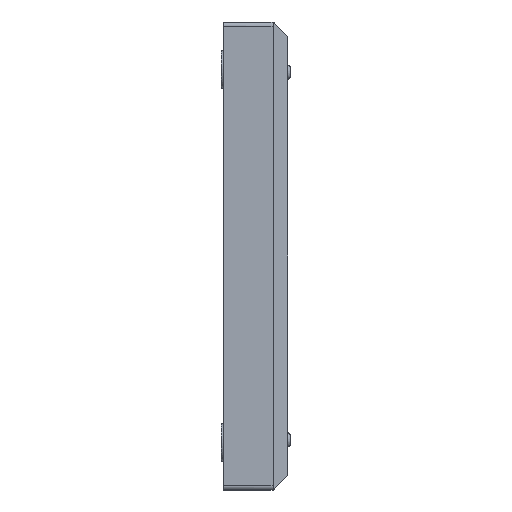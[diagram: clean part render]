
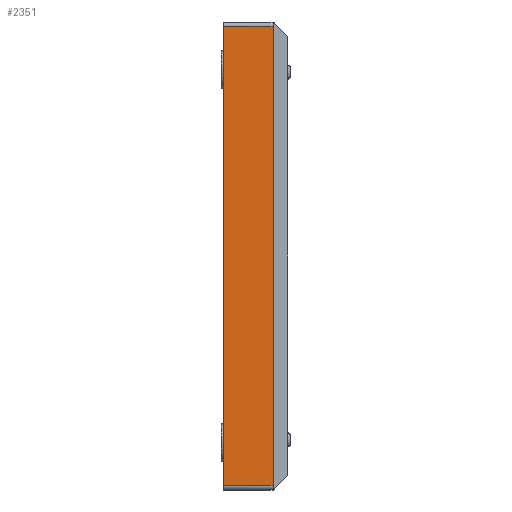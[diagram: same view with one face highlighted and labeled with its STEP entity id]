
A CAD part, left-side view. The second image highlights one B-rep face of the part: STEP entity #2351.
In plain terms, the highlighted planar face has unit normal (-1, 0, 0).
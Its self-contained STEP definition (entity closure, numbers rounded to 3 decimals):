
#397 = DIRECTION ( 'NONE',  ( -1., 0., 0. ) ) ;
#437 = LINE ( 'NONE', #3262, #1084 ) ;
#491 = CARTESIAN_POINT ( 'NONE',  ( -100., 0., 55. ) ) ;
#574 = VECTOR ( 'NONE', #1653, 1000. ) ;
#679 = EDGE_CURVE ( 'NONE', #884, #2939, #3019, .T. ) ;
#884 = VERTEX_POINT ( 'NONE', #1952 ) ;
#927 = EDGE_CURVE ( 'NONE', #1579, #884, #2544, .T. ) ;
#1005 = EDGE_CURVE ( 'NONE', #1583, #1579, #1613, .T. ) ;
#1084 = VECTOR ( 'NONE', #3075, 1000. ) ;
#1535 = CARTESIAN_POINT ( 'NONE',  ( -100., -15.4, -55. ) ) ;
#1579 = VERTEX_POINT ( 'NONE', #2450 ) ;
#1583 = VERTEX_POINT ( 'NONE', #2922 ) ;
#1613 = LINE ( 'NONE', #1535, #574 ) ;
#1653 = DIRECTION ( 'NONE',  ( 0., -1., 0. ) ) ;
#1694 = EDGE_CURVE ( 'NONE', #1583, #2939, #437, .T. ) ;
#1884 = DIRECTION ( 'NONE',  ( 0., 0., 1. ) ) ;
#1900 = CARTESIAN_POINT ( 'NONE',  ( -100., -11.9, 56. ) ) ;
#1952 = CARTESIAN_POINT ( 'NONE',  ( -100., -11.9, 55. ) ) ;
#1976 = AXIS2_PLACEMENT_3D ( 'NONE', #2643, #397, #2581 ) ;
#2195 = FACE_OUTER_BOUND ( 'NONE', #3383, .T. ) ;
#2351 = ADVANCED_FACE ( 'NONE', ( #2195 ), #2880, .T. ) ;
#2450 = CARTESIAN_POINT ( 'NONE',  ( -100., -11.9, -55. ) ) ;
#2458 = VECTOR ( 'NONE', #1884, 1000. ) ;
#2544 = LINE ( 'NONE', #1900, #2458 ) ;
#2581 = DIRECTION ( 'NONE',  ( 0., 0., 1. ) ) ;
#2643 = CARTESIAN_POINT ( 'NONE',  ( -100., -15.4, -56. ) ) ;
#2848 = CARTESIAN_POINT ( 'NONE',  ( -100., -15.4, 55. ) ) ;
#2880 = PLANE ( 'NONE',  #1976 ) ;
#2922 = CARTESIAN_POINT ( 'NONE',  ( -100., 0., -55. ) ) ;
#2923 = DIRECTION ( 'NONE',  ( 0., 1., 0. ) ) ;
#2930 = VECTOR ( 'NONE', #2923, 1000. ) ;
#2939 = VERTEX_POINT ( 'NONE', #491 ) ;
#3019 = LINE ( 'NONE', #2848, #2930 ) ;
#3075 = DIRECTION ( 'NONE',  ( 0., 0., 1. ) ) ;
#3262 = CARTESIAN_POINT ( 'NONE',  ( -100., 0., -56. ) ) ;
#3309 = ORIENTED_EDGE ( 'NONE', *, *, #1694, .F. ) ;
#3383 = EDGE_LOOP ( 'NONE', ( #3309, #3395, #3487, #3544 ) ) ;
#3395 = ORIENTED_EDGE ( 'NONE', *, *, #1005, .T. ) ;
#3487 = ORIENTED_EDGE ( 'NONE', *, *, #927, .T. ) ;
#3544 = ORIENTED_EDGE ( 'NONE', *, *, #679, .T. ) ;
